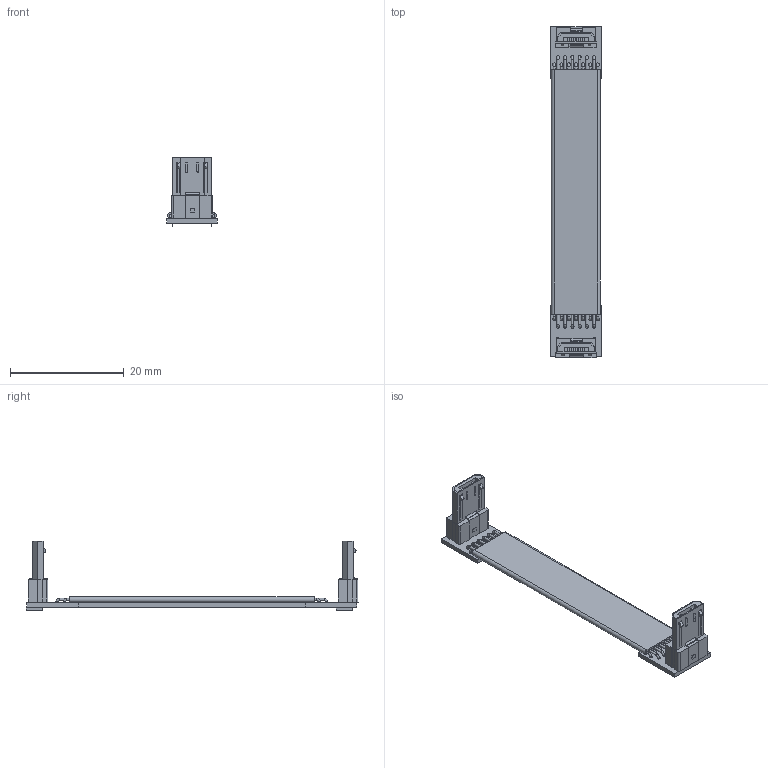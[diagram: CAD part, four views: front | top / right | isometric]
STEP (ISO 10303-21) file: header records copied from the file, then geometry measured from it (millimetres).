
FILE_DESCRIPTION(('Open CASCADE Model'),'2;1');
FILE_NAME('Open CASCADE Shape Model','2022-04-27T02:14:47',('Author'),( 'Open CASCADE'),'Open CASCADE STEP processor 6.8','Open CASCADE 6.8' ,'Unknown');
FILE_SCHEMA(('AUTOMOTIVE_DESIGN { 1 0 10303 214 1 1 1 1 }'));
Length unit declared in the file: millimetre
Products named in the file (34): PCB; Board; Open CASCADE STEP translator 6.8 5.1.1; Designator22_1; USB_micro; Designator22; Free-Models; cable13-US2A
Assembly tree (34 placements, depth 3):
  PCB
    Board
      Open CASCADE STEP translator 6.8 5.1.1
    Designator22_1
      USB_micro
    Designator22
      USB_micro
    Free-Models
      cable13-US2A
      cable13-US2A
      cable13-US2A
      cable13-US2A
      cable13-US2A
      cable13-US2A
      cable13-US2A
      cable13-US2A
      cable13-US2A
      cable13-US2A
      cable13-US2A
      cable13-US2A
      cable13-US2A
      cable13-US2A
      cable13-US2A
      cable13-US2A
      cable13-US2A
      cable13-US2A
      cable13-US2A
      cable13-US2A
      cable13-US2A
      cable13-US2A
      cable13-US2A
      cable13-US2A
      cable13-US2A
      cable13-US2A
      cable13-US2A
Bounding box: 8.96 x 58.36 x 12.18 mm (x, y, z)
Volume: 734.1 mm3; surface area: 2808 mm2
Topology: 30 solids, 30 shells, 543 faces, 1317 edges, 848 vertices
Faces by surface type: plane 354, cylinder 163, torus 26
Full cylindrical faces by diameter (mm): 0.35 x5, 0.36 x5, 0.4 x65, 0.55 x26
Entity records: 14326 total; most frequent: CARTESIAN_POINT 2063, DIRECTION 1886, ORIENTED_EDGE 1742, EDGE_CURVE 871, AXIS2_PLACEMENT_3D 692, VERTEX_POINT 557, LINE 502, VECTOR 502
